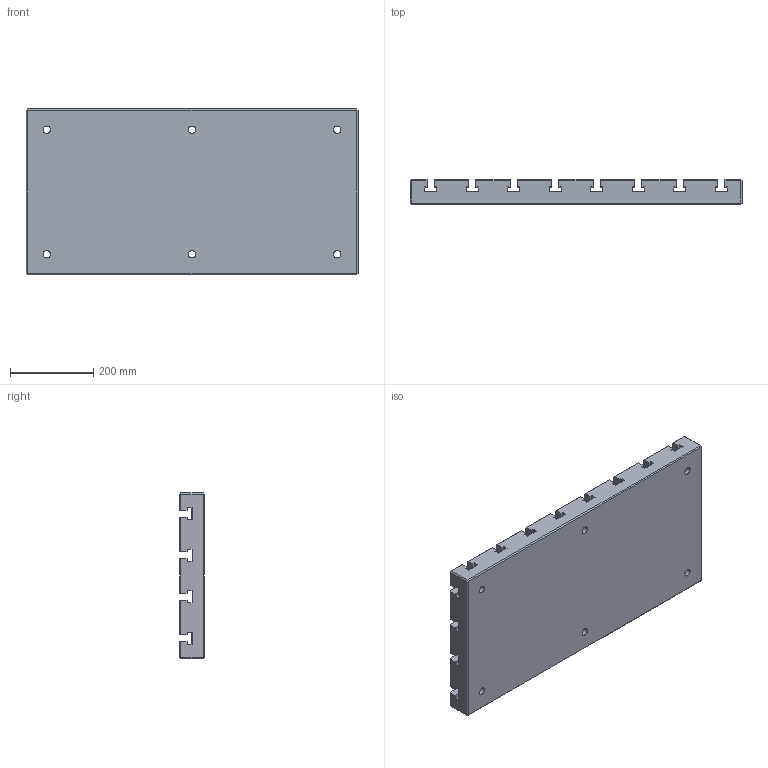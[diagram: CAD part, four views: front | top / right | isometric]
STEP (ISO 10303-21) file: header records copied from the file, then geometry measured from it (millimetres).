
FILE_DESCRIPTION((''),'2;1');
FILE_NAME('FG_WH_BASPL_RCT18NP003','2026-05-17T11:37:11',('Admin'),(''),'CREO PARAMETRIC BY PTC INC, 2025010','CREO PARAMETRIC BY PTC INC, 2025010','');
FILE_SCHEMA(('CONFIG_CONTROL_DESIGN'));
Length unit declared in the file: millimetre
Products named in the file (1): FG_WH_BASPL_RCT18NP003
Bounding box: 800 x 60 x 400 mm (x, y, z)
Volume: 15263720.8 mm3; surface area: 1181105.3 mm2
Topology: 1 solids, 1 shells, 498 faces, 1328 edges, 880 vertices
Faces by surface type: plane 454, cylinder 44
Entity records: 15294 total; most frequent: CARTESIAN_POINT 2706, ORIENTED_EDGE 2656, DIRECTION 2412, EDGE_CURVE 1328, VECTOR 1240, LINE 1240, VERTEX_POINT 880, AXIS2_PLACEMENT_3D 586
